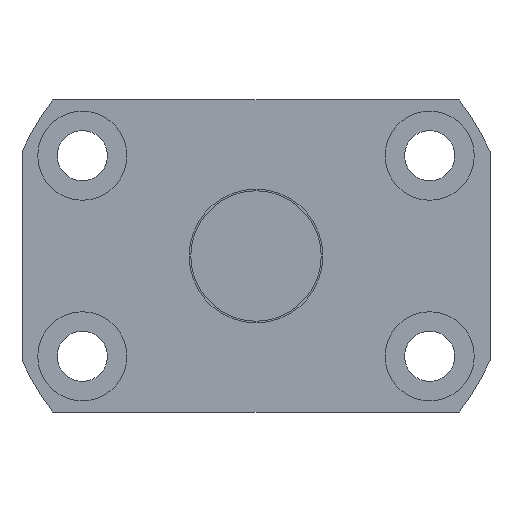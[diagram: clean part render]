
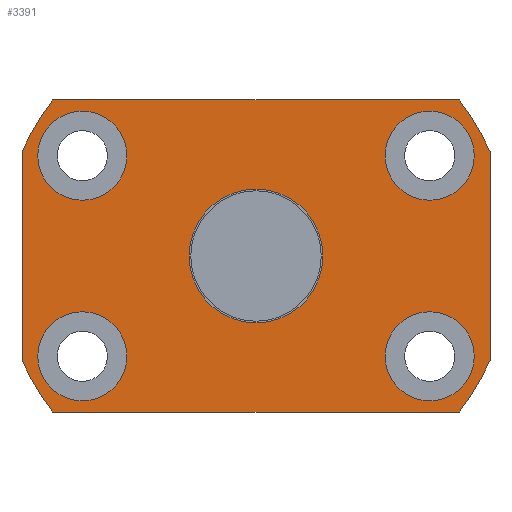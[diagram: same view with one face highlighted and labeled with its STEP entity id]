
A CAD part, left-side view. The second image highlights one B-rep face of the part: STEP entity #3391.
In plain terms, the highlighted planar face has unit normal (-1, 0, 0).
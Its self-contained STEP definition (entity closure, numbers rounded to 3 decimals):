
#479=CARTESIAN_POINT('',(200.575,19.588,-9.0));
#480=VERTEX_POINT('',#479);
#481=CARTESIAN_POINT('',(200.575,15.588,-9.0));
#482=DIRECTION('',(1.0,0.0,0.0));
#483=DIRECTION('',(0.0,1.0,0.0));
#484=AXIS2_PLACEMENT_3D('',#481,#482,#483);
#485=CIRCLE('',#484,4.0);
#486=EDGE_CURVE('',#480,#480,#485,.T.);
#547=CARTESIAN_POINT('',(200.575,-11.588,9.));
#548=VERTEX_POINT('',#547);
#549=CARTESIAN_POINT('',(200.575,-15.588,9.));
#550=DIRECTION('',(1.0,0.0,0.0));
#551=DIRECTION('',(0.0,1.0,0.0));
#552=AXIS2_PLACEMENT_3D('',#549,#550,#551);
#553=CIRCLE('',#552,4.0);
#554=EDGE_CURVE('',#548,#548,#553,.T.);
#615=CARTESIAN_POINT('',(200.575,19.588,9.));
#616=VERTEX_POINT('',#615);
#617=CARTESIAN_POINT('',(200.575,15.588,9.));
#618=DIRECTION('',(1.0,0.0,0.0));
#619=DIRECTION('',(0.0,1.0,0.0));
#620=AXIS2_PLACEMENT_3D('',#617,#618,#619);
#621=CIRCLE('',#620,4.0);
#622=EDGE_CURVE('',#616,#616,#621,.T.);
#683=CARTESIAN_POINT('',(200.575,-11.588,-9.));
#684=VERTEX_POINT('',#683);
#685=CARTESIAN_POINT('',(200.575,-15.588,-9.));
#686=DIRECTION('',(1.0,0.0,0.0));
#687=DIRECTION('',(0.0,1.0,0.0));
#688=AXIS2_PLACEMENT_3D('',#685,#686,#687);
#689=CIRCLE('',#688,4.0);
#690=EDGE_CURVE('',#684,#684,#689,.T.);
#3093=CARTESIAN_POINT('',(200.575,-18.248,14.));
#3094=VERTEX_POINT('',#3093);
#3101=CARTESIAN_POINT('',(200.575,-21.0,9.381));
#3102=VERTEX_POINT('',#3101);
#3103=CARTESIAN_POINT('',(200.575,0.,0.0));
#3104=DIRECTION('',(1.0,0.0,0.0));
#3105=DIRECTION('',(0.0,1.0,0.0));
#3106=AXIS2_PLACEMENT_3D('',#3103,#3104,#3105);
#3107=CIRCLE('',#3106,23.);
#3108=EDGE_CURVE('',#3094,#3102,#3107,.T.);
#3125=CARTESIAN_POINT('',(200.575,18.248,14.));
#3126=VERTEX_POINT('',#3125);
#3133=CARTESIAN_POINT('',(200.575,18.248,14.));
#3134=DIRECTION('',(0.0,-1.0,0.0));
#3135=VECTOR('',#3134,36.497);
#3136=LINE('',#3133,#3135);
#3137=EDGE_CURVE('',#3126,#3094,#3136,.T.);
#3149=CARTESIAN_POINT('',(200.575,21.,9.381));
#3150=VERTEX_POINT('',#3149);
#3157=CARTESIAN_POINT('',(200.575,0.,0.0));
#3158=DIRECTION('',(1.0,0.0,0.0));
#3159=DIRECTION('',(0.0,1.0,0.0));
#3160=AXIS2_PLACEMENT_3D('',#3157,#3158,#3159);
#3161=CIRCLE('',#3160,23.);
#3162=EDGE_CURVE('',#3150,#3126,#3161,.T.);
#3174=CARTESIAN_POINT('',(200.575,21.0,-9.381));
#3175=VERTEX_POINT('',#3174);
#3182=CARTESIAN_POINT('',(200.575,21.0,-9.381));
#3183=DIRECTION('',(0.0,0.0,1.0));
#3184=VECTOR('',#3183,18.762);
#3185=LINE('',#3182,#3184);
#3186=EDGE_CURVE('',#3175,#3150,#3185,.T.);
#3198=CARTESIAN_POINT('',(200.575,18.248,-14.));
#3199=VERTEX_POINT('',#3198);
#3206=CARTESIAN_POINT('',(200.575,0.,0.0));
#3207=DIRECTION('',(1.0,0.0,0.0));
#3208=DIRECTION('',(0.0,1.0,0.0));
#3209=AXIS2_PLACEMENT_3D('',#3206,#3207,#3208);
#3210=CIRCLE('',#3209,23.);
#3211=EDGE_CURVE('',#3199,#3175,#3210,.T.);
#3223=CARTESIAN_POINT('',(200.575,-18.248,-14.));
#3224=VERTEX_POINT('',#3223);
#3231=CARTESIAN_POINT('',(200.575,-18.248,-14.));
#3232=DIRECTION('',(0.0,1.0,0.0));
#3233=VECTOR('',#3232,36.497);
#3234=LINE('',#3231,#3233);
#3235=EDGE_CURVE('',#3224,#3199,#3234,.T.);
#3247=CARTESIAN_POINT('',(200.575,-21.0,-9.381));
#3248=VERTEX_POINT('',#3247);
#3255=CARTESIAN_POINT('',(200.575,0.,0.0));
#3256=DIRECTION('',(1.0,0.0,0.0));
#3257=DIRECTION('',(0.0,1.0,0.0));
#3258=AXIS2_PLACEMENT_3D('',#3255,#3256,#3257);
#3259=CIRCLE('',#3258,23.);
#3260=EDGE_CURVE('',#3248,#3224,#3259,.T.);
#3273=CARTESIAN_POINT('',(200.575,-21.0,9.381));
#3274=DIRECTION('',(0.0,0.0,-1.0));
#3275=VECTOR('',#3274,18.762);
#3276=LINE('',#3273,#3275);
#3277=EDGE_CURVE('',#3102,#3248,#3276,.T.);
#3288=CARTESIAN_POINT('',(200.575,6.,0.0));
#3289=VERTEX_POINT('',#3288);
#3290=CARTESIAN_POINT('',(200.575,0.,0.0));
#3291=DIRECTION('',(1.0,0.0,0.0));
#3292=DIRECTION('',(0.0,1.0,0.0));
#3293=AXIS2_PLACEMENT_3D('',#3290,#3291,#3292);
#3294=CIRCLE('',#3293,6.);
#3295=EDGE_CURVE('',#3289,#3289,#3294,.T.);
#3361=CARTESIAN_POINT('',(200.575,9.5,0.0));
#3362=DIRECTION('',(-1.0,0.0,0.0));
#3363=DIRECTION('',(0.0,0.0,1.0));
#3364=AXIS2_PLACEMENT_3D('',#3361,#3362,#3363);
#3365=PLANE('',#3364);
#3366=ORIENTED_EDGE('',*,*,#3186,.F.);
#3367=ORIENTED_EDGE('',*,*,#3211,.F.);
#3368=ORIENTED_EDGE('',*,*,#3235,.F.);
#3369=ORIENTED_EDGE('',*,*,#3260,.F.);
#3370=ORIENTED_EDGE('',*,*,#3277,.F.);
#3371=ORIENTED_EDGE('',*,*,#3108,.F.);
#3372=ORIENTED_EDGE('',*,*,#3137,.F.);
#3373=ORIENTED_EDGE('',*,*,#3162,.F.);
#3374=EDGE_LOOP('',(#3366,#3367,#3368,#3369,#3370,#3371,#3372,#3373));
#3375=FACE_OUTER_BOUND('',#3374,.T.);
#3376=ORIENTED_EDGE('',*,*,#486,.T.);
#3377=EDGE_LOOP('',(#3376));
#3378=FACE_BOUND('',#3377,.T.);
#3379=ORIENTED_EDGE('',*,*,#554,.T.);
#3380=EDGE_LOOP('',(#3379));
#3381=FACE_BOUND('',#3380,.T.);
#3382=ORIENTED_EDGE('',*,*,#622,.T.);
#3383=EDGE_LOOP('',(#3382));
#3384=FACE_BOUND('',#3383,.T.);
#3385=ORIENTED_EDGE('',*,*,#690,.T.);
#3386=EDGE_LOOP('',(#3385));
#3387=FACE_BOUND('',#3386,.T.);
#3388=ORIENTED_EDGE('',*,*,#3295,.T.);
#3389=EDGE_LOOP('',(#3388));
#3390=FACE_BOUND('',#3389,.T.);
#3391=ADVANCED_FACE('',(#3375,#3378,#3381,#3384,#3387,#3390),#3365,.T.);
